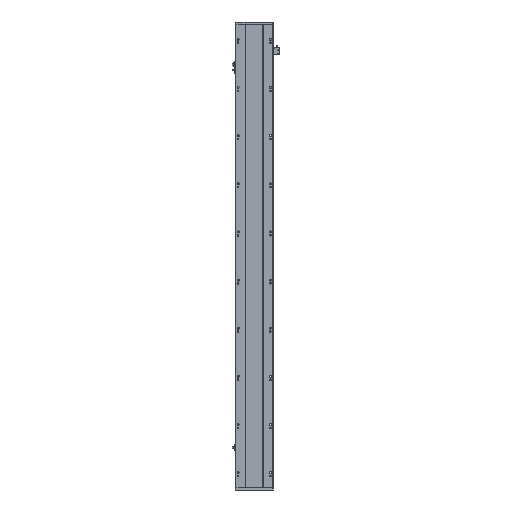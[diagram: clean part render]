
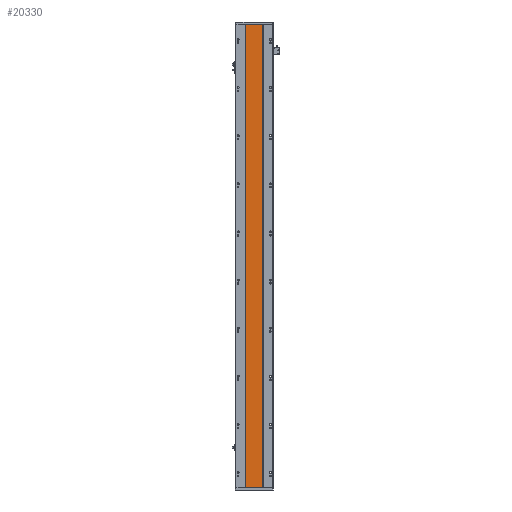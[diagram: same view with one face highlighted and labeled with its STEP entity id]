
A CAD part, front view. The second image highlights one B-rep face of the part: STEP entity #20330.
In plain terms, the highlighted planar face has unit normal (0, -1, 0).
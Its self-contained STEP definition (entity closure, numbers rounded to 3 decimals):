
#429 = VECTOR ( 'NONE', #12614, 1000. ) ;
#3500 = VERTEX_POINT ( 'NONE', #11068 ) ;
#4540 = ORIENTED_EDGE ( 'NONE', *, *, #27133, .T. ) ;
#5085 = PLANE ( 'NONE',  #12885 ) ;
#5855 = LINE ( 'NONE', #27246, #33730 ) ;
#7816 = LINE ( 'NONE', #29975, #23210 ) ;
#10526 = VERTEX_POINT ( 'NONE', #39237 ) ;
#11016 = ORIENTED_EDGE ( 'NONE', *, *, #30527, .F. ) ;
#11068 = CARTESIAN_POINT ( 'NONE',  ( 129.288, 16.9, 2080. ) ) ;
#12614 = DIRECTION ( 'NONE',  ( 0., 0., -1. ) ) ;
#12885 = AXIS2_PLACEMENT_3D ( 'NONE', #29399, #17433, #38423 ) ;
#17433 = DIRECTION ( 'NONE',  ( 0., 1., 0. ) ) ;
#20316 = CARTESIAN_POINT ( 'NONE',  ( 205.288, 16.9, 0. ) ) ;
#20330 = ADVANCED_FACE ( 'NONE', ( #21279 ), #5085, .F. ) ;
#21279 = FACE_OUTER_BOUND ( 'NONE', #30103, .T. ) ;
#21363 = EDGE_CURVE ( 'NONE', #3500, #10526, #5855, .T. ) ;
#22409 = CARTESIAN_POINT ( 'NONE',  ( 129.288, 16.9, 0. ) ) ;
#23210 = VECTOR ( 'NONE', #33197, 1000. ) ;
#25849 = EDGE_CURVE ( 'NONE', #28840, #30929, #30200, .T. ) ;
#26060 = CARTESIAN_POINT ( 'NONE',  ( 205.288, 16.9, 0. ) ) ;
#27133 = EDGE_CURVE ( 'NONE', #3500, #28840, #37465, .T. ) ;
#27246 = CARTESIAN_POINT ( 'NONE',  ( 129.288, 16.9, 2080. ) ) ;
#28169 = ORIENTED_EDGE ( 'NONE', *, *, #21363, .F. ) ;
#28840 = VERTEX_POINT ( 'NONE', #22409 ) ;
#29399 = CARTESIAN_POINT ( 'NONE',  ( 205.288, 16.9, 2080. ) ) ;
#29975 = CARTESIAN_POINT ( 'NONE',  ( 205.288, 16.9, 2080. ) ) ;
#30103 = EDGE_LOOP ( 'NONE', ( #34812, #11016, #28169, #4540 ) ) ;
#30200 = LINE ( 'NONE', #26060, #38396 ) ;
#30527 = EDGE_CURVE ( 'NONE', #10526, #30929, #7816, .T. ) ;
#30929 = VERTEX_POINT ( 'NONE', #20316 ) ;
#32524 = DIRECTION ( 'NONE',  ( 1., 0., 0. ) ) ;
#33197 = DIRECTION ( 'NONE',  ( 0., 0., -1. ) ) ;
#33730 = VECTOR ( 'NONE', #38961, 1000. ) ;
#34812 = ORIENTED_EDGE ( 'NONE', *, *, #25849, .T. ) ;
#36667 = CARTESIAN_POINT ( 'NONE',  ( 129.288, 16.9, 2080. ) ) ;
#37465 = LINE ( 'NONE', #36667, #429 ) ;
#38396 = VECTOR ( 'NONE', #32524, 1000. ) ;
#38423 = DIRECTION ( 'NONE',  ( -1., 0., 0. ) ) ;
#38961 = DIRECTION ( 'NONE',  ( 1., 0., 0. ) ) ;
#39237 = CARTESIAN_POINT ( 'NONE',  ( 205.288, 16.9, 2080. ) ) ;
